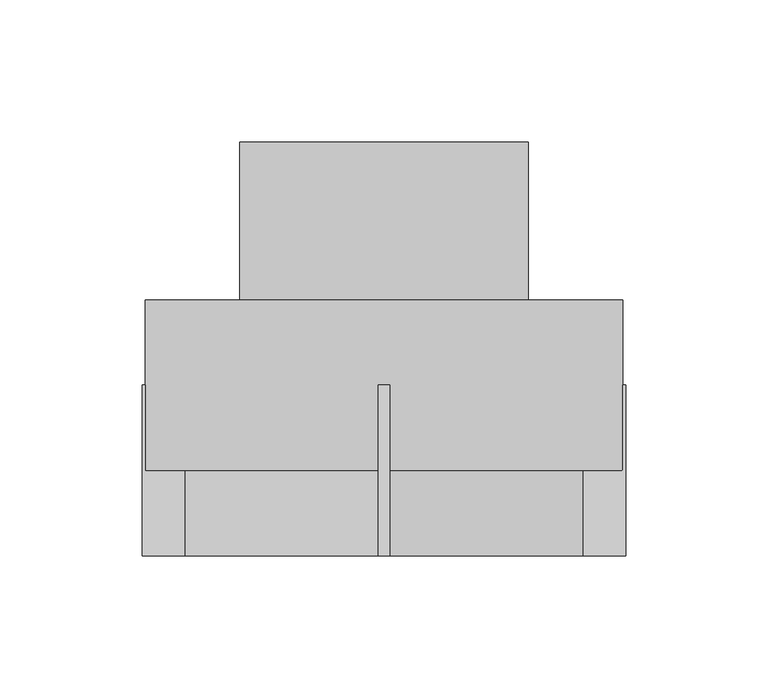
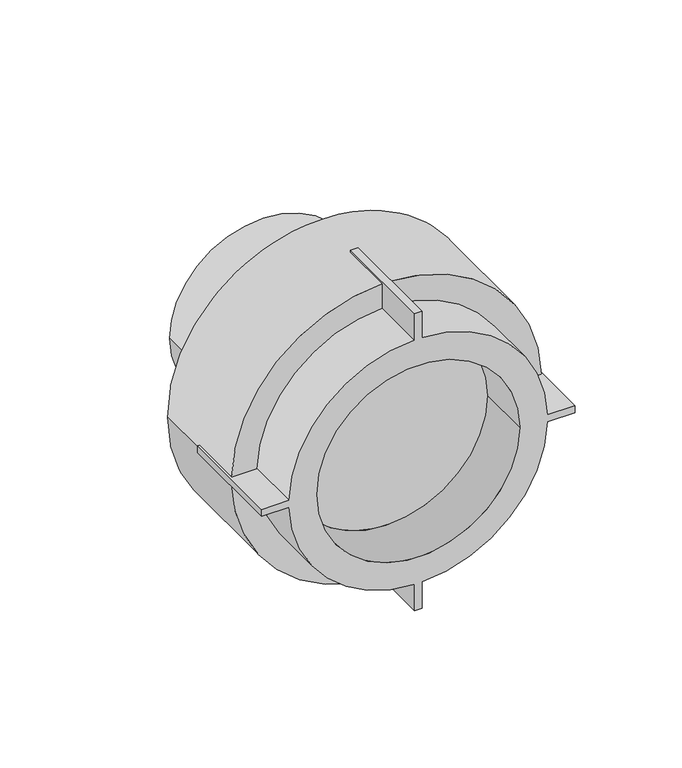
"""IFC4 building model written with IfcOpenShell, lengths in millimetres: pipe fitting geometry, EGB_VASEN_ PPR_Entronque rosca macho WXR101 : Entronque rosca macho WXR101."""

import ifcopenshell
import ifcopenshell.guid

model = None  # the IFC model being written
_history = None  # IfcOwnerHistory: only IFC2X3 demands one
_inside = {}  # id of a spatial element -> (the spatial element, [elements in it])
_under = {}  # id of a project, library or spatial element -> (it, [spatial elements below it])
_declared = {}  # id of a project -> (the project, [libraries it declares])
_typed = {}  # id of a type object -> (the type object, [elements of that type])
_made_of = {}  # id of a material, layer set ... -> (it, [elements and type objects made of it])


def new_model(schema):
    """Start an empty IFC model of exactly this schema.

    Asked for "IFC4X3", IfcOpenShell would pick the latest addendum, in which some entities
    have other attributes; the version numbers below select the first issue.
    IFC2X3 requires an IfcOwnerHistory on every rooted entity: one is made here for all.
    """
    global model, _history
    if schema == "IFC4X3":
        model = ifcopenshell.file(schema_version=(4, 3, 0, 0))
    else:
        model = ifcopenshell.file(schema=schema)
    _inside.clear()
    _under.clear()
    _declared.clear()
    _typed.clear()
    _made_of.clear()
    _history = None
    if model.schema == "IFC2X3":
        org = make("IfcOrganization", Name="unknown")
        user = make(
            "IfcPersonAndOrganization",
            ThePerson=make("IfcPerson", FamilyName="unknown"),
            TheOrganization=org,
        )
        app = make(
            "IfcApplication",
            ApplicationDeveloper=org,
            Version="unknown",
            ApplicationFullName="unknown",
            ApplicationIdentifier="unknown",
        )
        _history = make(
            "IfcOwnerHistory",
            OwningUser=user,
            OwningApplication=app,
            ChangeAction="ADDED",
            CreationDate=0,
        )
    return model


def make(cls, **values):
    """One entity of the class cls with the attributes given. An attribute that is None is left unset."""
    return model.create_entity(
        cls, **{name: value for name, value in values.items() if value is not None}
    )


def rooted(cls, **values):
    """An entity with a GlobalId (a new one), such as an element, a storey or a relation."""
    return make(cls, GlobalId=ifcopenshell.guid.new(), OwnerHistory=_history, **values)


def si_unit(unit_type, name, prefix=None):
    """IfcSIUnit, for example si_unit("LENGTHUNIT", "METRE", prefix="MILLI")."""
    return make("IfcSIUnit", UnitType=unit_type, Prefix=prefix, Name=name)


def assignment(units):
    """IfcUnitAssignment: the units of a project."""
    return None if units is None else make("IfcUnitAssignment", Units=units)


def point(xyz):
    """IfcCartesianPoint."""
    return None if xyz is None else make("IfcCartesianPoint", Coordinates=xyz)


def direction(xyz):
    """IfcDirection."""
    return None if xyz is None else make("IfcDirection", DirectionRatios=xyz)


def frame(location, z_axis=None, x_axis=None):
    """IfcAxis2Placement3D, a coordinate frame: its origin and axes. An axis left out is left unset."""
    return make(
        "IfcAxis2Placement3D",
        Location=point(location),
        Axis=direction(z_axis),
        RefDirection=direction(x_axis),
    )


def frame_2d(location, x_axis=None):
    """IfcAxis2Placement2D, a coordinate frame in the plane: its origin and x axis."""
    return make(
        "IfcAxis2Placement2D", Location=point(location), RefDirection=direction(x_axis)
    )


def origin():
    """The frame at (0, 0, 0) with its axes left unset."""
    return frame((0.0, 0.0, 0.0))


def origin_2d():
    """The frame at (0, 0) in the plane with its x axis left unset."""
    return frame_2d((0.0, 0.0))


def place(relative_to, where):
    """IfcLocalPlacement: puts the frame where relative to a parent placement (None: the world)."""
    return make(
        "IfcLocalPlacement", PlacementRelTo=relative_to, RelativePlacement=where
    )


def context(
    kind, dimensions, precision=None, world=None, true_north=None, identifier=None
):
    """IfcGeometricRepresentationContext, for example the 3D "Model" context."""
    return make(
        "IfcGeometricRepresentationContext",
        ContextIdentifier=identifier,
        ContextType=kind,
        CoordinateSpaceDimension=dimensions,
        Precision=precision,
        WorldCoordinateSystem=world,
        TrueNorth=true_north,
    )


def project(units=None, contexts=None):
    """IfcProject with its units and contexts."""
    return rooted(
        "IfcProject",
        Name="project",
        RepresentationContexts=contexts,
        UnitsInContext=assignment(units),
    )


def spatial(cls, under=None, at=None, **own):
    """A site, building, storey or space (cls), placed at a placement, below another one or the project."""
    s = rooted(cls, ObjectPlacement=at, **own)
    if under is not None:
        _under.setdefault(under.id(), (under, []))[1].append(s)
    return s


def polyline(points):
    """IfcPolyline through the points."""
    return make("IfcPolyline", Points=[point(p) for p in points])


def circle_curve(where, radius):
    """IfcCircle in the frame where."""
    return make("IfcCircle", Position=where, Radius=radius)


def trimmed(basis, trim1, trim2, sense, master):
    """IfcTrimmedCurve: the piece of a basis curve between two trims."""
    return make(
        "IfcTrimmedCurve",
        BasisCurve=basis,
        Trim1=trim1,
        Trim2=trim2,
        SenseAgreement=sense,
        MasterRepresentation=master,
    )


def segment(curve, same_sense, transition):
    """IfcCompositeCurveSegment."""
    return make(
        "IfcCompositeCurveSegment",
        Transition=transition,
        SameSense=same_sense,
        ParentCurve=curve,
    )


def composite_curve(segments, self_intersect=None):
    """IfcCompositeCurve: segments joined end to end."""
    return make("IfcCompositeCurve", Segments=segments, SelfIntersect=self_intersect)


def outline(outer, holes=None, kind="AREA"):
    """IfcArbitraryClosedProfileDef: a profile drawn as a closed curve; with holes, ...WithVoids."""
    if holes is None:
        return make("IfcArbitraryClosedProfileDef", ProfileType=kind, OuterCurve=outer)
    return make(
        "IfcArbitraryProfileDefWithVoids",
        ProfileType=kind,
        OuterCurve=outer,
        InnerCurves=holes,
    )


def extrude(swept, where, along, depth):
    """IfcExtrudedAreaSolid: the profile swept, set in the frame where, extruded along a direction by depth."""
    return make(
        "IfcExtrudedAreaSolid",
        SweptArea=swept,
        Position=where,
        ExtrudedDirection=direction(along),
        Depth=depth,
    )


def shape(context_of_items, identifier, shape_type, items):
    """IfcShapeRepresentation: the items that make up one representation, for example the "Body"."""
    return make(
        "IfcShapeRepresentation",
        ContextOfItems=context_of_items,
        RepresentationIdentifier=identifier,
        RepresentationType=shape_type,
        Items=items,
    )


def source(mapping_origin, context_of_items, identifier, shape_type, items):
    """IfcRepresentationMap: a shape defined once, which mapped items show again and again."""
    return make(
        "IfcRepresentationMap",
        MappingOrigin=mapping_origin,
        MappedRepresentation=shape(context_of_items, identifier, shape_type, items),
    )


def transform(
    local_origin,
    x_axis=None,
    y_axis=None,
    z_axis=None,
    scale=None,
    scale2=None,
    scale3=None,
    uniform=True,
):
    """IfcCartesianTransformationOperator3D, or its non-uniform kind. x_axis, y_axis, z_axis: its Axis1, 2, 3."""
    if uniform:
        return make(
            "IfcCartesianTransformationOperator3D",
            Axis1=direction(x_axis),
            Axis2=direction(y_axis),
            LocalOrigin=point(local_origin),
            Scale=scale,
            Axis3=direction(z_axis),
        )
    return make(
        "IfcCartesianTransformationOperator3DnonUniform",
        Axis1=direction(x_axis),
        Axis2=direction(y_axis),
        LocalOrigin=point(local_origin),
        Scale=scale,
        Axis3=direction(z_axis),
        Scale2=scale2,
        Scale3=scale3,
    )


def mapped(mapping_source, mapping_target):
    """IfcMappedItem: shows the shape of a source again, moved by a transform."""
    return make(
        "IfcMappedItem", MappingSource=mapping_source, MappingTarget=mapping_target
    )


def made_of(thing, what):
    """Note that an element or type object is made of a material, layer set ...; save() writes the relation."""
    if what is not None:
        _made_of.setdefault(what.id(), (what, []))[1].append(thing)
    return thing


def element(
    cls,
    number,
    at=None,
    inside=None,
    cuts=None,
    type_object=None,
    material=None,
    context=None,
    identifier="Body",
    shape_type=None,
    held_by="IfcProductDefinitionShape",
    body=None,
    shapes=None,
    **own,
):
    """One element of the class cls, such as IfcWall. Its Tag is "e" and its number.

    at: its placement. inside: the storey or other place that contains it. cuts: it is an
    opening in that element (IfcRelVoidsElement). A single representation is given by context,
    identifier, shape_type and body (its items); several are given by shapes. held_by: the class
    of the entity that holds the representations. save() writes the other relations.
    """
    e = rooted(cls, Tag="e%d" % number, ObjectPlacement=at, **own)
    if body is not None:
        shapes = [shape(context, identifier, shape_type, body)]
    if shapes is not None:
        e.Representation = make(held_by, Representations=shapes)
    if inside is not None:
        _inside.setdefault(inside.id(), (inside, []))[1].append(e)
    if cuts is not None:
        rooted(
            "IfcRelVoidsElement", RelatingBuildingElement=cuts, RelatedOpeningElement=e
        )
    if type_object is not None:
        _typed.setdefault(type_object.id(), (type_object, []))[1].append(e)
    return made_of(e, material)


def aggregate(whole, parts):
    """IfcRelAggregates: a whole, such as a stair, and the parts it consists of."""
    return rooted("IfcRelAggregates", RelatingObject=whole, RelatedObjects=parts)


def save(model, path):
    """Write the relations noted so far, then the file.

    IfcRelAggregates (storeys below a building ...), IfcRelContainedInSpatialStructure (elements
    in a storey), IfcRelDefinesByType, IfcRelAssociatesMaterial and IfcRelDeclares: one each for
    every whole, place, type object, material and project.
    """
    for whole, parts in _under.values():
        aggregate(whole, parts)
    for where, things in _inside.values():
        rooted(
            "IfcRelContainedInSpatialStructure",
            RelatedElements=things,
            RelatingStructure=where,
        )
    for kind, things in _typed.values():
        rooted("IfcRelDefinesByType", RelatedObjects=things, RelatingType=kind)
    for what, things in _made_of.values():
        rooted("IfcRelAssociatesMaterial", RelatedObjects=things, RelatingMaterial=what)
    for by, libraries in _declared.values():
        rooted("IfcRelDeclares", RelatingContext=by, RelatedDefinitions=libraries)
    model.write(path)


def plane_surface(at):
    """IfcPlane: the flat surface through the origin of the frame at, square to its z axis."""
    return make("IfcPlane", Position=at)


def cylinder_surface(at, radius):
    """IfcCylindricalSurface: all points at the distance radius from the z axis of the frame at."""
    return make("IfcCylindricalSurface", Position=at, Radius=radius)


def revolved_surface(curve, axis_point, axis_direction):
    """IfcSurfaceOfRevolution: the curve turned about the line through axis_point along axis_direction."""
    return make(
        "IfcSurfaceOfRevolution",
        SweptCurve=make("IfcArbitraryOpenProfileDef", ProfileType="CURVE", Curve=curve),
        AxisPosition=make("IfcAxis1Placement", Location=point(axis_point), Axis=direction(axis_direction)),
    )


def advanced_brep(points, edges, surfaces, faces):
    """IfcAdvancedBrep: a solid bounded by faces that lie on surfaces and meet in shared edges.

    An edge is (start, end): straight between two places in points (the first is 0);
    or (start, end, curve); or (start, end, curve, False) where it runs against its curve.
    A face is (place in surfaces, loops), or (place, loops, False) where it looks against
    its surface's normal. A loop lists edges by number (the first is 1), with a minus sign
    where the edge is run from its end to its start. The first loop is the outer one.
    """
    corners = [point(p) for p in points]
    vertices = [make("IfcVertexPoint", VertexGeometry=c) for c in corners]
    made = []
    for start, end, *more in edges:
        made.append(
            make(
                "IfcEdgeCurve",
                EdgeStart=vertices[start],
                EdgeEnd=vertices[end],
                EdgeGeometry=more[0] if more else make("IfcPolyline", Points=[corners[start], corners[end]]),
                SameSense=more[1] if len(more) > 1 else True,
            )
        )
    hull = []
    for where, loops, *sense in faces:
        bounds = []
        for j, loop in enumerate(loops):
            ring = [make("IfcOrientedEdge", EdgeElement=made[abs(k) - 1], Orientation=k > 0) for k in loop]
            bounds.append(
                make(
                    "IfcFaceOuterBound" if j == 0 else "IfcFaceBound",
                    Bound=make("IfcEdgeLoop", EdgeList=ring),
                    Orientation=True,
                )
            )
        hull.append(make("IfcAdvancedFace", Bounds=bounds, FaceSurface=surfaces[where], SameSense=sense[0] if sense else True))
    return make("IfcAdvancedBrep", Outer=make("IfcClosedShell", CfsFaces=hull))


def pipe_fitting_c321b3ef(model_context):
    return source(origin(), model_context, "Body", "SolidModel", [
        advanced_brep(
        [(2.0, -30.0, 85.0), (-2.0, -30.0, 85.0), (-2.0, -30.0, 69.9714227), (-69.9714227, -30.0, 2.0), (-85.0, -30.0, 2.0), (-85.0, -30.0, -2.0), (-69.9714227, -30.0, -2.0), (-2.0, -30.0, -69.9714227), (-2.0, -30.0, -85.0), (2.0, -30.0, -85.0), (2.0, -30.0, -69.9714227), (69.9714227, -30.0, -2.0), (85.0, -30.0, -2.0), (85.0, -30.0, 2.0), (69.9714227, -30.0, 2.0), (2.0, -30.0, 69.9714227), (-55.0, -30.0, 0.0), (55.0, -30.0, 0.0), (-2.0, 30.0, 85.0), (2.0, 30.0, 85.0), (2.0, 30.0, 83.9761871), (-2.0, 30.0, 83.9761871), (2.0, 30.0, -85.0), (-2.0, 30.0, -85.0), (-2.0, 30.0, -83.9761871), (2.0, 30.0, -83.9761871), (85.0, 30.0, 2.0), (85.0, 30.0, -2.0), (83.9761871, 30.0, -2.0), (84.0, 30.0, 0.0), (83.9761871, 30.0, 2.0), (-85.0, 30.0, -2.0), (-85.0, 30.0, 2.0), (-83.9761871, 30.0, 2.0), (-84.0, 30.0, 0.0), (-83.9761871, 30.0, -2.0), (2.0, 0.0, 69.9714227), (2.0, 0.0, 83.9761871), (-2.0, 0.0, 83.9761871), (-2.0, 0.0, 69.9714227), (2.0, 0.0, -83.9761871), (2.0, 0.0, -69.9714227), (-2.0, 0.0, -69.9714227), (-2.0, 0.0, -83.9761871), (69.9714227, 0.0, -2.0), (83.9761871, 0.0, -2.0), (83.9761871, 0.0, 2.0), (69.9714227, 0.0, 2.0), (-83.9761871, 0.0, -2.0), (-69.9714227, 0.0, -2.0), (-69.9714227, 0.0, 2.0), (-83.9761871, 0.0, 2.0), (-55.0, 0.0, 0.0), (55.0, 0.0, 0.0), (-84.0, 60.0, 0.0), (84.0, 60.0, 0.0)],
        [
            (0, 1),
            (1, 2),
            (2, 3, circle_curve(frame((0.0, -30.0, 0.0), z_axis=(0.0, -1.0, 0.0), x_axis=(1.0, 0.0, 0.0)), 70.0)),
            (3, 4),
            (4, 5),
            (5, 6),
            (6, 7, circle_curve(frame((0.0, -30.0, 0.0), z_axis=(0.0, -1.0, 0.0), x_axis=(1.0, 0.0, 0.0)), 70.0)),
            (7, 8),
            (8, 9),
            (9, 10),
            (10, 11, circle_curve(frame((0.0, -30.0, 0.0), z_axis=(0.0, -1.0, 0.0), x_axis=(1.0, 0.0, 0.0)), 70.0)),
            (11, 12),
            (12, 13),
            (13, 14),
            (14, 15, circle_curve(frame((0.0, -30.0, 0.0), z_axis=(0.0, -1.0, 0.0), x_axis=(1.0, 0.0, 0.0)), 70.0)),
            (15, 0),
            (16, 17, circle_curve(frame((0.0, -30.0, 0.0), z_axis=(0.0, 1.0, 0.0), x_axis=(1.0, 0.0, 0.0)), 55.0)),
            (17, 16, circle_curve(frame((0.0, -30.0, 0.0), z_axis=(0.0, 1.0, 0.0), x_axis=(1.0, 0.0, 0.0)), 55.0)),
            (18, 19),
            (19, 20),
            (20, 21, circle_curve(frame((0.0, 30.0, 0.0), z_axis=(0.0, -1.0, 0.0), x_axis=(1.0, 0.0, 0.0)), 84.0)),
            (21, 18),
            (22, 23),
            (23, 24),
            (24, 25, circle_curve(frame((0.0, 30.0, 0.0), z_axis=(0.0, -1.0, 0.0), x_axis=(1.0, 0.0, 0.0)), 84.0)),
            (25, 22),
            (26, 27),
            (27, 28),
            (28, 29, circle_curve(frame((0.0, 30.0, 0.0), z_axis=(0.0, -1.0, 0.0), x_axis=(1.0, 0.0, 0.0)), 84.0)),
            (29, 30, circle_curve(frame((0.0, 30.0, 0.0), z_axis=(0.0, -1.0, 0.0), x_axis=(1.0, 0.0, 0.0)), 84.0)),
            (30, 26),
            (31, 32),
            (32, 33),
            (33, 34, circle_curve(frame((0.0, 30.0, 0.0), z_axis=(0.0, -1.0, 0.0), x_axis=(1.0, 0.0, 0.0)), 84.0)),
            (34, 35, circle_curve(frame((0.0, 30.0, 0.0), z_axis=(0.0, -1.0, 0.0), x_axis=(1.0, 0.0, 0.0)), 84.0)),
            (35, 31),
            (19, 0),
            (15, 36),
            (36, 37),
            (37, 20),
            (18, 1),
            (21, 38),
            (38, 39),
            (39, 2),
            (8, 23),
            (22, 9),
            (25, 40),
            (40, 41),
            (41, 10),
            (7, 42),
            (42, 43),
            (43, 24),
            (27, 12),
            (11, 44),
            (44, 45),
            (45, 28),
            (26, 13),
            (30, 46),
            (46, 47),
            (47, 14),
            (5, 31),
            (35, 48),
            (48, 49),
            (49, 6),
            (32, 4),
            (3, 50),
            (50, 51),
            (51, 33),
            (49, 42, circle_curve(frame((0.0, 0.0, 0.0), z_axis=(0.0, -1.0, 0.0), x_axis=(1.0, 0.0, 0.0)), 70.0)),
            (41, 44, circle_curve(frame((0.0, 0.0, 0.0), z_axis=(0.0, -1.0, 0.0), x_axis=(1.0, 0.0, 0.0)), 70.0)),
            (39, 50, circle_curve(frame((0.0, 0.0, 0.0), z_axis=(0.0, -1.0, 0.0), x_axis=(1.0, 0.0, 0.0)), 70.0)),
            (47, 36, circle_curve(frame((0.0, 0.0, 0.0), z_axis=(0.0, -1.0, 0.0), x_axis=(1.0, 0.0, 0.0)), 70.0)),
            (16, 52),
            (52, 53, circle_curve(frame((0.0, 0.0, 0.0), z_axis=(0.0, 1.0, 0.0), x_axis=(1.0, 0.0, 0.0)), 55.0)),
            (53, 17),
            (53, 52, circle_curve(frame((0.0, 0.0, 0.0), z_axis=(0.0, 1.0, 0.0), x_axis=(1.0, 0.0, 0.0)), 55.0)),
            (40, 45, circle_curve(frame((0.0, 0.0, 0.0), z_axis=(0.0, -1.0, 0.0), x_axis=(1.0, 0.0, 0.0)), 84.0)),
            (48, 43, circle_curve(frame((0.0, 0.0, 0.0), z_axis=(0.0, -1.0, 0.0), x_axis=(1.0, 0.0, 0.0)), 84.0)),
            (46, 37, circle_curve(frame((0.0, 0.0, 0.0), z_axis=(0.0, -1.0, 0.0), x_axis=(1.0, 0.0, 0.0)), 84.0)),
            (38, 51, circle_curve(frame((0.0, 0.0, 0.0), z_axis=(0.0, -1.0, 0.0), x_axis=(1.0, 0.0, 0.0)), 84.0)),
            (54, 55, circle_curve(frame((0.0, 60.0, 0.0), z_axis=(0.0, 1.0, 0.0), x_axis=(1.0, 0.0, 0.0)), 84.0)),
            (55, 54, circle_curve(frame((0.0, 60.0, 0.0), z_axis=(0.0, 1.0, 0.0), x_axis=(1.0, 0.0, 0.0)), 84.0)),
            (55, 29),
            (34, 54),
        ],
        [
            plane_surface(frame((0.0, -30.0, 0.0), z_axis=(0.0, -1.0, 0.0), x_axis=(0.0, 0.0, 1.0))),
            plane_surface(frame((0.0, 30.0, 0.0), z_axis=(0.0, 1.0, 0.0), x_axis=(0.0, 0.0, 1.0))),
            plane_surface(frame((2.0, -30.0, 69.0), z_axis=(1.0, 0.0, 0.0), x_axis=(0.0, 1.0, 0.0))),
            plane_surface(frame((2.0, -30.0, 85.0), z_axis=(0.0, 0.0, 1.0), x_axis=(0.0, 1.0, 0.0))),
            plane_surface(frame((-2.0, -30.0, 85.0), z_axis=(-1.0, 0.0, 0.0), x_axis=(0.0, 1.0, 0.0))),
            plane_surface(frame((-2.0, -30.0, -85.0), z_axis=(0.0, 0.0, -1.0), x_axis=(0.0, 1.0, 0.0))),
            plane_surface(frame((2.0, -30.0, -85.0), z_axis=(1.0, 0.0, 0.0), x_axis=(0.0, 1.0, 0.0))),
            plane_surface(frame((-2.0, -30.0, -69.0), z_axis=(-1.0, 0.0, 0.0), x_axis=(0.0, 1.0, 0.0))),
            plane_surface(frame((69.0, -30.0, -2.0), z_axis=(0.0, 0.0, -1.0), x_axis=(0.0, 1.0, 0.0))),
            plane_surface(frame((85.0, -30.0, -2.0), z_axis=(1.0, 0.0, 0.0), x_axis=(0.0, 1.0, 0.0))),
            plane_surface(frame((85.0, -30.0, 2.0), z_axis=(0.0, 0.0, 1.0), x_axis=(0.0, 1.0, 0.0))),
            plane_surface(frame((-85.0, -30.0, -2.0), z_axis=(0.0, 0.0, -1.0), x_axis=(0.0, 1.0, 0.0))),
            plane_surface(frame((-69.0, -30.0, 2.0), z_axis=(0.0, 0.0, 1.0), x_axis=(0.0, 1.0, 0.0))),
            plane_surface(frame((-85.0, -30.0, 2.0), z_axis=(-1.0, 0.0, 0.0), x_axis=(0.0, 1.0, 0.0))),
            cylinder_surface(frame((0.0, 0.0, 0.0), z_axis=(0.0, -1.0, 0.0), x_axis=(1.0, 0.0, 0.0)), 70.0),
            revolved_surface(polyline([(55.0, 0.0, 0.0), (55.0, -30.0, 0.0)]), (0.0, 0.0, 0.0), (0.0, 1.0, 0.0)),
            plane_surface(frame((84.0, 0.0, 0.0), z_axis=(0.0, -1.0, 0.0), x_axis=(0.0, 0.0, 1.0))),
            plane_surface(frame((84.0, 60.0, 0.0), z_axis=(0.0, 1.0, 0.0), x_axis=(0.0, 0.0, -1.0))),
            cylinder_surface(frame((0.0, 60.0, 0.0), z_axis=(0.0, -1.0, 0.0), x_axis=(1.0, 0.0, 0.0)), 84.0),
        ],
        [
            (0, [[1, 2, 3, 4, 5, 6, 7, 8, 9, 10, 11, 12, 13, 14, 15, 16], [17, 18]]),
            (1, [[19, 20, 21, 22]]),
            (1, [[23, 24, 25, 26]]),
            (1, [[27, 28, 29, 30, 31]]),
            (1, [[32, 33, 34, 35, 36]]),
            (2, [[37, -16, 38, 39, 40, -20]]),
            (3, [[-1, -37, -19, 41]]),
            (4, [[-41, -22, 42, 43, 44, -2]]),
            (5, [[-9, 45, -23, 46]]),
            (6, [[-46, -26, 47, 48, 49, -10]]),
            (7, [[-45, -8, 50, 51, 52, -24]]),
            (8, [[53, -12, 54, 55, 56, -28]]),
            (9, [[-13, -53, -27, 57]]),
            (10, [[-57, -31, 58, 59, 60, -14]]),
            (11, [[61, -36, 62, 63, 64, -6]]),
            (12, [[65, -4, 66, 67, 68, -33]]),
            (13, [[-5, -65, -32, -61]]),
            (14, [[-7, -64, 69, -50]]),
            (14, [[-11, -49, 70, -54]]),
            (14, [[-3, -44, 71, -66]]),
            (14, [[-15, -60, 72, -38]]),
            (15, [[-17, 73, 74, 75]]),
            (15, [[-18, -75, 76, -73]]),
            (16, [[-74, -76]]),
            (16, [[77, -55, -70, -48]]),
            (16, [[78, -51, -69, -63]]),
            (16, [[79, -39, -72, -59]]),
            (16, [[80, -67, -71, -43]]),
            (17, [[81, 82]]),
            (18, [[-82, 83, -29, -56, -77, -47, -25, -52, -78, -62, -35, 84]]),
            (18, [[-81, -84, -34, -68, -80, -42, -21, -40, -79, -58, -30, -83]]),
        ],
    ),
        extrude(outline(composite_curve([segment(trimmed(circle_curve(origin_2d(), 50.8), [point((0.0, -50.8))], [point((0.0, 50.8))], False, "CARTESIAN"), True, "CONTINUOUS"), segment(trimmed(circle_curve(origin_2d(), 50.8), [point((0.0, 50.8))], [point((0.0, -50.8))], False, "CARTESIAN"), True, "CONTINUOUS")], self_intersect=False)), frame((0.0, 30.0, 0.0), z_axis=(0.0, 1.0, 0.0), x_axis=(0.0, 0.0, 1.0)), (0.0, 0.0, 1.0), 85.5),
    ])


if __name__ == "__main__":
    model = new_model("IFC4")
    model_context = context("Model", 3, world=origin())
    ifc_project = project(units=[si_unit("LENGTHUNIT", "METRE", prefix="MILLI")], contexts=[model_context])
    site = spatial("IfcSite", under=ifc_project)
    building = spatial("IfcBuilding", under=site)
    placement = place(None, origin())
    pipe_fitting_shape = pipe_fitting_c321b3ef(model_context)
    element("IfcPipeFitting", 1, ObjectType="EGB_VASEN_ PPR_Entronque rosca macho WXR101 : Entronque rosca macho WXR101", at=placement, inside=building, context=model_context, shape_type="MappedRepresentation", body=[
        mapped(pipe_fitting_shape, transform((0.0, 0.0, 0.0), x_axis=(1.0, 0.0, 0.0), y_axis=(0.0, 1.0, 0.0), z_axis=(0.0, 0.0, 1.0))),
    ])
    save(model, "model.ifc")
